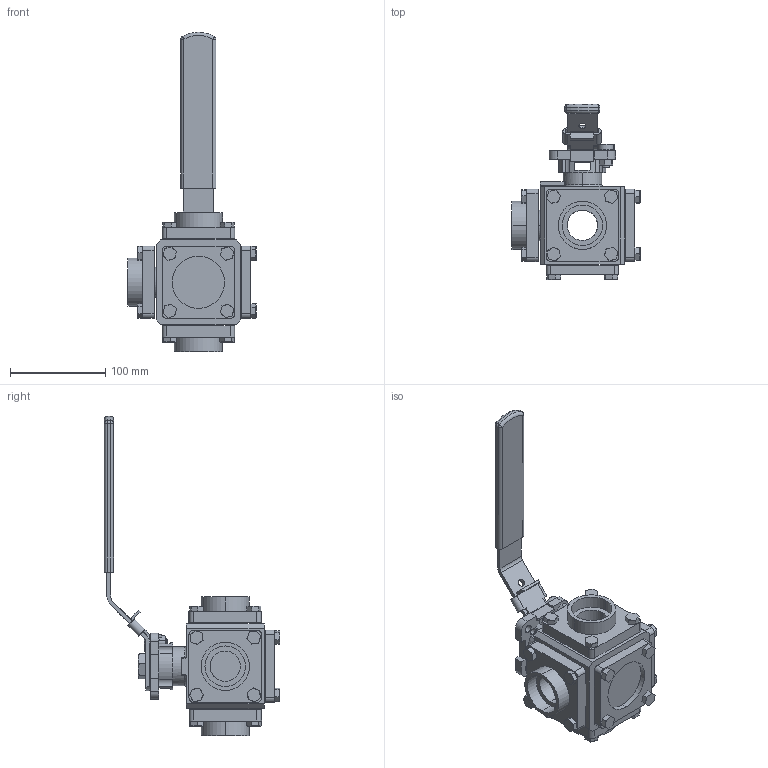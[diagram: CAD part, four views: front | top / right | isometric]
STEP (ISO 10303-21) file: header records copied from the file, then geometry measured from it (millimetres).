
FILE_DESCRIPTION (( 'STEP AP214' ), '1' );
FILE_NAME ('33-SW-0125-XXX.step', '2019-09-30T20:18:07', ( '' ), ( '' ), 'SwSTEP 2.0', 'SolidWorks 2019', '' );
FILE_SCHEMA (( 'AUTOMOTIVE_DESIGN' ));
Length unit declared in the file: inch
Products named in the file (2): 33-SW-0125-XXX
Bounding box: 134.65 x 184.11 x 335.83 mm (x, y, z)
Surface area: 159694.7 mm2 (no closed solid volume)
Topology: 0 solids, 35 shells, 544 faces, 1514 edges, 1003 vertices
Faces by surface type: plane 407, cylinder 107, cone 19, torus 5, sphere 4, bspline 2
Entity records: 24675 total; most frequent: CARTESIAN_POINT 3653, DIRECTION 2918, ORIENTED_EDGE 2585, EDGE_CURVE 1510, LINE 1082, VECTOR 1082, VERTEX_POINT 1003, AXIS2_PLACEMENT_3D 918
